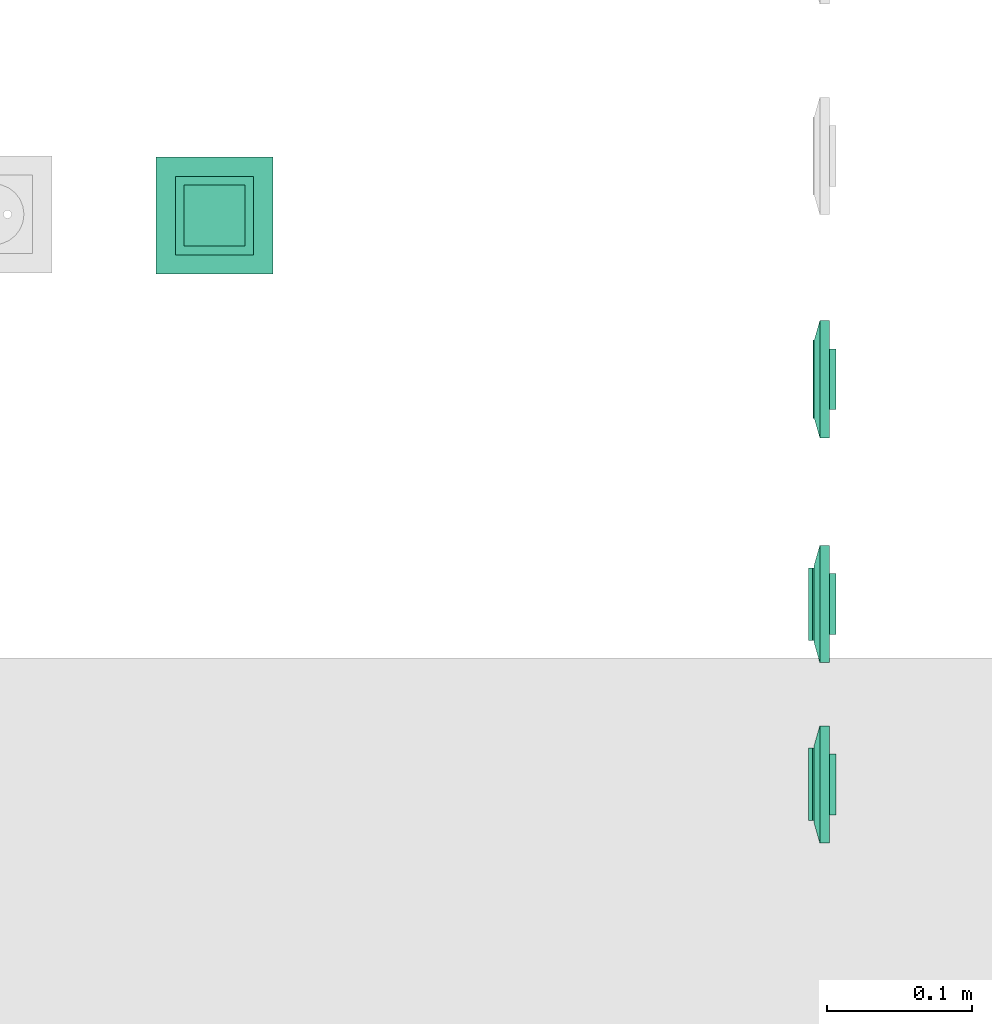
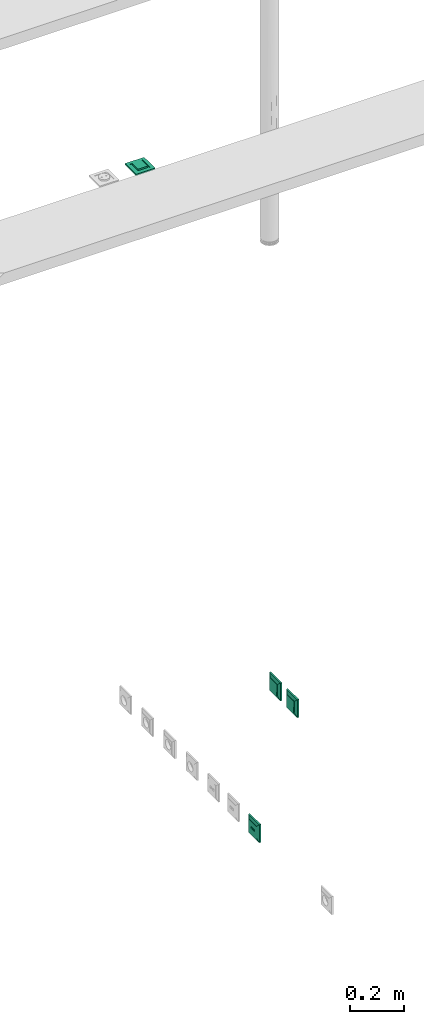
# One storey, part 35 of 146: 4 flow terminals.
"""IFC2X3 building model written with IfcOpenShell, lengths in metres."""

from ifc_helpers import new_model, entity, si_unit, converted_unit, derived_unit, direction, frame, origin, place, context, subcontext, project, spatial, faceted_brep, source, transform, mapped, type_object, type_shapes, element, save


model = new_model("IFC2X3")

# Units and contexts
model_context = context("Model", 3, precision=1e-05, world=origin(), true_north=direction((6.12303176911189e-17, 1.0)))
body_context = subcontext(model_context, "Body", "Model", "MODEL_VIEW")
ifc_project = project(units=[si_unit("LENGTHUNIT", "METRE"), si_unit("AREAUNIT", "SQUARE_METRE"), si_unit("VOLUMEUNIT", "CUBIC_METRE"), converted_unit("PLANEANGLEUNIT", "DEGREE", entity("IfcRatioMeasure", 0.0174532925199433), si_unit("PLANEANGLEUNIT", "RADIAN"), dimensions=[0, 0, 0, 0, 0, 0, 0]), si_unit("MASSUNIT", "GRAM", prefix="KILO"), derived_unit("MASSDENSITYUNIT", [(si_unit("MASSUNIT", "GRAM", prefix="KILO"), 1), (si_unit("LENGTHUNIT", "METRE"), -3)]), si_unit("TIMEUNIT", "SECOND"), si_unit("FREQUENCYUNIT", "HERTZ"), si_unit("THERMODYNAMICTEMPERATUREUNIT", "DEGREE_CELSIUS"), derived_unit("THERMALTRANSMITTANCEUNIT", [(si_unit("MASSUNIT", "GRAM", prefix="KILO"), 1), (si_unit("THERMODYNAMICTEMPERATUREUNIT", "KELVIN"), -1), (si_unit("TIMEUNIT", "SECOND"), -3)]), derived_unit("VOLUMETRICFLOWRATEUNIT", [(si_unit("LENGTHUNIT", "METRE"), 3), (si_unit("TIMEUNIT", "SECOND"), -1)]), si_unit("ELECTRICCURRENTUNIT", "AMPERE"), si_unit("ELECTRICVOLTAGEUNIT", "VOLT"), si_unit("POWERUNIT", "WATT"), si_unit("FORCEUNIT", "NEWTON"), si_unit("ILLUMINANCEUNIT", "LUX"), si_unit("LUMINOUSFLUXUNIT", "LUMEN"), si_unit("LUMINOUSINTENSITYUNIT", "CANDELA"), derived_unit("USERDEFINED", [(si_unit("MASSUNIT", "GRAM", prefix="KILO"), -1), (si_unit("LENGTHUNIT", "METRE"), -2), (si_unit("TIMEUNIT", "SECOND"), 3), (si_unit("LUMINOUSFLUXUNIT", "LUMEN"), 1)]), derived_unit("LINEARVELOCITYUNIT", [(si_unit("LENGTHUNIT", "METRE"), 1), (si_unit("TIMEUNIT", "SECOND"), -1)]), si_unit("PRESSUREUNIT", "PASCAL"), derived_unit("USERDEFINED", [(si_unit("LENGTHUNIT", "METRE"), -2), (si_unit("MASSUNIT", "GRAM", prefix="KILO"), 1), (si_unit("TIMEUNIT", "SECOND"), -2)])], contexts=[model_context])

# Site, building, storey
site_placement = place(None, origin())
site = spatial("IfcSite", under=ifc_project, at=site_placement, Name="Default", CompositionType="ELEMENT")
building_placement = place(site_placement, origin())
building = spatial("IfcBuilding", under=site, at=building_placement, CompositionType="ELEMENT")
storey_placement = place(building_placement, origin())
storey = spatial("IfcBuildingStorey", under=building, at=storey_placement, Name="S01", CompositionType="ELEMENT", Elevation=0.0)

# Flow terminals
electric_appliance_type_1 = type_object("IfcElectricApplianceType", Name="RJ45 IP20", PredefinedType="NOTDEFINED")
shared_shape_1 = source(origin(), body_context, "Body", "Brep", [
    faceted_brep([(0.00200000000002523, 0.0, 0.00799999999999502), (0.00400000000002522, 0.0, 0.00799999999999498), (0.00500000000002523, 0.00199999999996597, 0.00799999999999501), (0.0110000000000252, 0.00199999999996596, 0.00799999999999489), (0.0120000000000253, 0.0, 0.00799999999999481), (0.0140000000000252, 0.0, 0.00799999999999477), (0.0140000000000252, 0.00399999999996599, 0.00799999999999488), (0.00200000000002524, 0.00399999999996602, 0.00799999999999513), (0.00200000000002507, 0.0, 0.0), (0.00200000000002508, 0.00399999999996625, 0.0), (0.0140000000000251, 0.00399999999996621, 0.0), (0.0140000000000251, 0.0, 0.0), (0.0120000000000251, 0.0, 0.0), (0.0110000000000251, 0.00199999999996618, 0.0), (0.00500000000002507, 0.0019999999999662, 0.0), (0.00400000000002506, 0.0, 0.0)], [[[0, 1, 2, 3, 4, 5, 6, 7]], [[8, 9, 10, 11, 12, 13, 14, 15]], [[1, 0, 8, 15]], [[2, 1, 15, 14]], [[3, 2, 14, 13]], [[4, 3, 13, 12]], [[5, 4, 12, 11]], [[6, 5, 11, 10]], [[7, 6, 10, 9]], [[0, 7, 9, 8]]]),
    faceted_brep([(-0.0139999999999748, 0.0, 0.00799999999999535), (-0.0119999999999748, 0.0, 0.00799999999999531), (-0.0109999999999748, 0.00199999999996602, 0.00799999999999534), (-0.00499999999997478, 0.00199999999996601, 0.00799999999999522), (-0.0039999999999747, 0.0, 0.00799999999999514), (-0.00199999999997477, 0.0, 0.0079999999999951), (-0.00199999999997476, 0.00399999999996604, 0.00799999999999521), (-0.0139999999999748, 0.00399999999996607, 0.00799999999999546), (-0.0139999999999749, 0.0, 0.0), (-0.0139999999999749, 0.00399999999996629, 0.0), (-0.00199999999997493, 0.00399999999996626, 0.0), (-0.00199999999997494, 0.0, 0.0), (-0.00399999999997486, 0.0, 0.0), (-0.00499999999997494, 0.00199999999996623, 0.0), (-0.0109999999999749, 0.00199999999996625, 0.0), (-0.0119999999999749, 0.0, 0.0)], [[[0, 1, 2, 3, 4, 5, 6, 7]], [[8, 9, 10, 11, 12, 13, 14, 15]], [[1, 0, 8, 15]], [[2, 1, 15, 14]], [[3, 2, 14, 13]], [[4, 3, 13, 12]], [[5, 4, 12, 11]], [[6, 5, 11, 10]], [[7, 6, 10, 9]], [[0, 7, 9, 8]]]),
    faceted_brep([(0.0140000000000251, 0.00399999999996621, 0.0), (0.00200000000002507, 0.00399999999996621, 0.0), (0.00200000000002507, -0.00350000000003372, 0.0), (0.0140000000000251, -0.00350000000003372, 0.0), (0.0140000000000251, 0.00399999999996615, 0.00199999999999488), (0.00200000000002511, 0.00399999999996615, 0.00199999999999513), (0.00200000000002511, -0.00393859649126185, 0.00199999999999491), (0.0140000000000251, -0.00393859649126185, 0.00199999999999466), (0.0210000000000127, 0.0209999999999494, 0.00199999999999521), (-0.0209999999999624, 0.0209999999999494, 0.00199999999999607), (-0.0209999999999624, -0.0210000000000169, 0.00199999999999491), (0.0210000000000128, -0.0210000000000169, 0.00199999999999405), (-0.0139999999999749, 0.0039999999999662, 0.00199999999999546), (-0.0019999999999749, 0.0039999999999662, 0.00199999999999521), (-0.00199999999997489, -0.0039385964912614, 0.00199999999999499), (-0.0139999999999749, -0.00393859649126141, 0.00199999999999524), (0.0210000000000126, 0.0209999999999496, -0.00460000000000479), (0.0210000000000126, -0.0210000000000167, -0.00460000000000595), (-0.0209999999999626, -0.0210000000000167, -0.00460000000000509), (-0.0209999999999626, 0.0209999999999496, -0.00460000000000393), (-0.00199999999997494, 0.00399999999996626, 0.0), (-0.0139999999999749, 0.00399999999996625, 0.0), (-0.0139999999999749, -0.00350000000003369, 0.0), (-0.00199999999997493, -0.00350000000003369, 0.0)], [[[0, 1, 2, 3]], [[1, 0, 4, 5]], [[2, 1, 5, 6]], [[3, 2, 6, 7]], [[0, 3, 7, 4]], [[5, 4, 7, 6], [8, 9, 10, 11], [12, 13, 14, 15]], [[16, 17, 18, 19]], [[9, 8, 16, 19]], [[10, 9, 19, 18]], [[11, 10, 18, 17]], [[8, 11, 17, 16]], [[20, 21, 22, 23]], [[21, 20, 13, 12]], [[22, 21, 12, 15]], [[23, 22, 15, 14]], [[20, 23, 14, 13]]], outer=[[True], [True], [True], [True], [True], [False, True, False], [True], [True], [True], [True], [True], [True], [True], [True], [True], [True]]),
    faceted_brep([(0.0270000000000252, 0.026999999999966, 0.0113999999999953), (-0.0269999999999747, 0.026999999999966, 0.0113999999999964), (-0.0269999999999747, -0.0270000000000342, 0.0113999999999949), (0.0270000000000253, -0.0270000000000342, 0.0113999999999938), (0.0020000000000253, 0.00399999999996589, 0.0113999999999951), (0.0140000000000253, 0.00399999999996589, 0.0113999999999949), (0.0140000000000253, -0.00600000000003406, 0.0113999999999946), (0.0020000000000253, -0.00600000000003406, 0.0113999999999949), (-0.0139999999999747, 0.00399999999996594, 0.0113999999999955), (-0.00199999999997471, 0.00399999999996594, 0.0113999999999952), (-0.00199999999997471, -0.0060000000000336, 0.0113999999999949), (-0.0139999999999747, -0.00600000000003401, 0.0113999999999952), (0.0270000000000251, 0.0269999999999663, 0.00199999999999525), (0.0270000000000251, -0.0270000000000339, 0.00199999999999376), (-0.0269999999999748, -0.0270000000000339, 0.00199999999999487), (-0.0269999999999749, 0.0269999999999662, 0.00199999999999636), (0.0140000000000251, 0.00399999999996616, 0.00199999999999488), (0.00200000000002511, 0.00399999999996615, 0.00199999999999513), (0.00200000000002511, -0.00393859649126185, 0.00199999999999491), (0.0140000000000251, -0.00393859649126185, 0.00199999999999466), (-0.00199999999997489, 0.0039999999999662, 0.00199999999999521), (-0.0139999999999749, 0.0039999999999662, 0.00199999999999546), (-0.0139999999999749, -0.0039385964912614, 0.00199999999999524), (-0.00199999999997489, -0.0039385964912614, 0.00199999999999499)], [[[0, 1, 2, 3], [4, 5, 6, 7], [8, 9, 10, 11]], [[12, 13, 14, 15], [16, 17, 18, 19], [20, 21, 22, 23]], [[1, 0, 12, 15]], [[2, 1, 15, 14]], [[3, 2, 14, 13]], [[0, 3, 13, 12]], [[4, 17, 16, 5]], [[17, 4, 7, 18]], [[18, 7, 6, 19]], [[5, 16, 19, 6]], [[8, 21, 20, 9]], [[21, 8, 11, 22]], [[22, 11, 10, 23]], [[9, 20, 23, 10]]]),
    faceted_brep([(0.027000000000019, 0.0269999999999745, 0.00659999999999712), (-0.0269999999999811, 0.0269999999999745, 0.00659999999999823), (-0.026999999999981, -0.0270000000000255, 0.00659999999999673), (0.027000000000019, -0.0270000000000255, 0.00659999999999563), (0.040350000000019, 0.0403499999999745, 0.00659999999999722), (0.040350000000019, -0.0403500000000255, 0.00659999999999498), (-0.0403499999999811, -0.0403500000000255, 0.00659999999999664), (-0.0403499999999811, 0.0403499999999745, 0.00659999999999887), (-0.026999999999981, 0.0269999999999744, 0.0103999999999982), (0.027000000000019, 0.0269999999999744, 0.0103999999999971), (-0.026999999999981, -0.0270000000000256, 0.0103999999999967), (0.027000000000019, -0.0270000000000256, 0.0103999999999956)], [[[0, 1, 2, 3], [4, 5, 6, 7]], [[4, 7, 8, 9]], [[7, 6, 10, 8]], [[6, 5, 11, 10]], [[5, 4, 9, 11]], [[0, 9, 8, 1]], [[1, 8, 10, 2]], [[2, 10, 11, 3]], [[9, 0, 3, 11]]], outer=[[False, True], [True], [True], [True], [True], [True], [True], [True], [True]]),
    faceted_brep([(0.040350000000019, 0.0403499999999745, 0.00659999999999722), (-0.0403499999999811, 0.0403499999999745, 0.00659999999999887), (-0.0403499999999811, -0.0403500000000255, 0.00659999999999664), (0.040350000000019, -0.0403500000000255, 0.00659999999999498), (-0.0269999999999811, 0.0269999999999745, 0.00659999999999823), (0.0270000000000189, 0.0269999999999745, 0.00659999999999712), (0.0270000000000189, -0.0270000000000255, 0.00659999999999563), (-0.0269999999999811, -0.0270000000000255, 0.00659999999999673), (0.0403500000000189, 0.0403499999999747, 0.0), (0.0403500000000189, -0.0403500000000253, 0.0), (-0.0403499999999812, -0.0403500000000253, 0.0), (-0.0403499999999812, 0.0403499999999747, 0.0), (0.0270000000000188, 0.0269999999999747, 0.0), (-0.0269999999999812, 0.0269999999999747, 0.0), (-0.0269999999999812, -0.0270000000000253, 0.0), (0.0270000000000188, -0.0270000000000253, 0.0)], [[[0, 1, 2, 3], [4, 5, 6, 7]], [[8, 9, 10, 11], [12, 13, 14, 15]], [[1, 0, 8, 11]], [[2, 1, 11, 10]], [[3, 2, 10, 9]], [[0, 3, 9, 8]], [[12, 5, 4, 13]], [[13, 4, 7, 14]], [[14, 7, 6, 15]], [[5, 12, 15, 6]]]),
])
type_shapes(electric_appliance_type_1, [shared_shape_1])
flow_terminal_1_placement = place(storey_placement, frame((40.8031955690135, -189.054169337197, 0.320000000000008), z_axis=(-1.0, 0.0, 0.0), x_axis=(0.0, -1.0, 0.0)))
element("IfcFlowTerminal", 1, at=flow_terminal_1_placement, inside=storey, type_object=electric_appliance_type_1, Name="INT_Prise RJ45:RJ45 IP20", ObjectType="INT_Prise RJ45:RJ45 IP20", context=body_context, shape_type="MappedRepresentation", body=[
    mapped(shared_shape_1, transform((0.0, 0.0, 0.0), scale=1.0)),
])
electric_appliance_type_2 = type_object("IfcElectricApplianceType", Name="RJ45 IP21", PredefinedType="NOTDEFINED")
shared_shape_2 = source(origin(), body_context, "Body", "Brep", [
    faceted_brep([(0.00200000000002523, 0.0, 0.00799999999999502), (0.00400000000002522, 0.0, 0.00799999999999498), (0.00500000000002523, 0.00199999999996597, 0.00799999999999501), (0.0110000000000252, 0.00199999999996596, 0.00799999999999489), (0.0120000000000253, 0.0, 0.00799999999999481), (0.0140000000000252, 0.0, 0.00799999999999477), (0.0140000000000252, 0.00399999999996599, 0.00799999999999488), (0.00200000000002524, 0.00399999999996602, 0.00799999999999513), (0.00200000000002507, 0.0, 0.0), (0.00200000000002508, 0.00399999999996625, 0.0), (0.0140000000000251, 0.00399999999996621, 0.0), (0.0140000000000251, 0.0, 0.0), (0.0120000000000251, 0.0, 0.0), (0.0110000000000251, 0.00199999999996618, 0.0), (0.00500000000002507, 0.0019999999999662, 0.0), (0.00400000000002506, 0.0, 0.0)], [[[0, 1, 2, 3, 4, 5, 6, 7]], [[8, 9, 10, 11, 12, 13, 14, 15]], [[1, 0, 8, 15]], [[2, 1, 15, 14]], [[3, 2, 14, 13]], [[4, 3, 13, 12]], [[5, 4, 12, 11]], [[6, 5, 11, 10]], [[7, 6, 10, 9]], [[0, 7, 9, 8]]]),
    faceted_brep([(-0.0139999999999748, 0.0, 0.00799999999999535), (-0.0119999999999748, 0.0, 0.00799999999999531), (-0.0109999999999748, 0.00199999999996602, 0.00799999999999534), (-0.00499999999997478, 0.00199999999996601, 0.00799999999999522), (-0.0039999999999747, 0.0, 0.00799999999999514), (-0.00199999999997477, 0.0, 0.0079999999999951), (-0.00199999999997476, 0.00399999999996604, 0.00799999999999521), (-0.0139999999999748, 0.00399999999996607, 0.00799999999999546), (-0.0139999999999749, 0.0, 0.0), (-0.0139999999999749, 0.00399999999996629, 0.0), (-0.00199999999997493, 0.00399999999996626, 0.0), (-0.00199999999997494, 0.0, 0.0), (-0.00399999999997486, 0.0, 0.0), (-0.00499999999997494, 0.00199999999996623, 0.0), (-0.0109999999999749, 0.00199999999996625, 0.0), (-0.0119999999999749, 0.0, 0.0)], [[[0, 1, 2, 3, 4, 5, 6, 7]], [[8, 9, 10, 11, 12, 13, 14, 15]], [[1, 0, 8, 15]], [[2, 1, 15, 14]], [[3, 2, 14, 13]], [[4, 3, 13, 12]], [[5, 4, 12, 11]], [[6, 5, 11, 10]], [[7, 6, 10, 9]], [[0, 7, 9, 8]]]),
    faceted_brep([(0.0140000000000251, 0.00399999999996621, 0.0), (0.00200000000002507, 0.00399999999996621, 0.0), (0.00200000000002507, -0.00350000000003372, 0.0), (0.0140000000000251, -0.00350000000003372, 0.0), (0.0140000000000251, 0.00399999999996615, 0.00199999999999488), (0.00200000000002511, 0.00399999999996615, 0.00199999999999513), (0.00200000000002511, -0.00393859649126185, 0.00199999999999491), (0.0140000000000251, -0.00393859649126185, 0.00199999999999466), (0.0210000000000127, 0.0209999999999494, 0.00199999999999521), (-0.0209999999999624, 0.0209999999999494, 0.00199999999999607), (-0.0209999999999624, -0.0210000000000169, 0.00199999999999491), (0.0210000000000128, -0.0210000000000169, 0.00199999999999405), (-0.0139999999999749, 0.0039999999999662, 0.00199999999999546), (-0.0019999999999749, 0.0039999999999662, 0.00199999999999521), (-0.00199999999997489, -0.0039385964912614, 0.00199999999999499), (-0.0139999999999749, -0.00393859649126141, 0.00199999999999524), (0.0210000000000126, 0.0209999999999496, -0.00460000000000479), (0.0210000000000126, -0.0210000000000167, -0.00460000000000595), (-0.0209999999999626, -0.0210000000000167, -0.00460000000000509), (-0.0209999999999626, 0.0209999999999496, -0.00460000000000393), (-0.00199999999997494, 0.00399999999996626, 0.0), (-0.0139999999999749, 0.00399999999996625, 0.0), (-0.0139999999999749, -0.00350000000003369, 0.0), (-0.00199999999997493, -0.00350000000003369, 0.0)], [[[0, 1, 2, 3]], [[1, 0, 4, 5]], [[2, 1, 5, 6]], [[3, 2, 6, 7]], [[0, 3, 7, 4]], [[5, 4, 7, 6], [8, 9, 10, 11], [12, 13, 14, 15]], [[16, 17, 18, 19]], [[9, 8, 16, 19]], [[10, 9, 19, 18]], [[11, 10, 18, 17]], [[8, 11, 17, 16]], [[20, 21, 22, 23]], [[21, 20, 13, 12]], [[22, 21, 12, 15]], [[23, 22, 15, 14]], [[20, 23, 14, 13]]], outer=[[True], [True], [True], [True], [True], [False, True, False], [True], [True], [True], [True], [True], [True], [True], [True], [True], [True]]),
    faceted_brep([(0.0270000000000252, 0.026999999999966, 0.0113999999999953), (-0.0269999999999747, 0.026999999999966, 0.0113999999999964), (-0.0269999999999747, -0.0270000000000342, 0.0113999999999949), (0.0270000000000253, -0.0270000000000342, 0.0113999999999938), (0.0020000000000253, 0.00399999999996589, 0.0113999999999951), (0.0140000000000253, 0.00399999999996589, 0.0113999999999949), (0.0140000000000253, -0.00600000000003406, 0.0113999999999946), (0.0020000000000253, -0.00600000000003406, 0.0113999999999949), (-0.0139999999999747, 0.00399999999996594, 0.0113999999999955), (-0.00199999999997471, 0.00399999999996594, 0.0113999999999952), (-0.00199999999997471, -0.0060000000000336, 0.0113999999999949), (-0.0139999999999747, -0.00600000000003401, 0.0113999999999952), (0.0270000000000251, 0.0269999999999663, 0.00199999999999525), (0.0270000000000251, -0.0270000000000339, 0.00199999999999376), (-0.0269999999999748, -0.0270000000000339, 0.00199999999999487), (-0.0269999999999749, 0.0269999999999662, 0.00199999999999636), (0.0140000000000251, 0.00399999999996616, 0.00199999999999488), (0.00200000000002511, 0.00399999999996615, 0.00199999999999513), (0.00200000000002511, -0.00393859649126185, 0.00199999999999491), (0.0140000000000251, -0.00393859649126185, 0.00199999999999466), (-0.00199999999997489, 0.0039999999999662, 0.00199999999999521), (-0.0139999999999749, 0.0039999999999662, 0.00199999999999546), (-0.0139999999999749, -0.0039385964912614, 0.00199999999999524), (-0.00199999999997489, -0.0039385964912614, 0.00199999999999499)], [[[0, 1, 2, 3], [4, 5, 6, 7], [8, 9, 10, 11]], [[12, 13, 14, 15], [16, 17, 18, 19], [20, 21, 22, 23]], [[1, 0, 12, 15]], [[2, 1, 15, 14]], [[3, 2, 14, 13]], [[0, 3, 13, 12]], [[4, 17, 16, 5]], [[17, 4, 7, 18]], [[18, 7, 6, 19]], [[5, 16, 19, 6]], [[8, 21, 20, 9]], [[21, 8, 11, 22]], [[22, 11, 10, 23]], [[9, 20, 23, 10]]]),
    faceted_brep([(0.027000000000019, 0.0269999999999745, 0.00659999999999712), (-0.0269999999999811, 0.0269999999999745, 0.00659999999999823), (-0.026999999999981, -0.0270000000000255, 0.00659999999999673), (0.027000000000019, -0.0270000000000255, 0.00659999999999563), (0.040350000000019, 0.0403499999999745, 0.00659999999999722), (0.040350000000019, -0.0403500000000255, 0.00659999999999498), (-0.0403499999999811, -0.0403500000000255, 0.00659999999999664), (-0.0403499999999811, 0.0403499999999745, 0.00659999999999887), (-0.026999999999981, 0.0269999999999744, 0.0103999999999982), (0.027000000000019, 0.0269999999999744, 0.0103999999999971), (-0.026999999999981, -0.0270000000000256, 0.0103999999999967), (0.027000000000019, -0.0270000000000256, 0.0103999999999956)], [[[0, 1, 2, 3], [4, 5, 6, 7]], [[4, 7, 8, 9]], [[7, 6, 10, 8]], [[6, 5, 11, 10]], [[5, 4, 9, 11]], [[0, 9, 8, 1]], [[1, 8, 10, 2]], [[2, 10, 11, 3]], [[9, 0, 3, 11]]], outer=[[False, True], [True], [True], [True], [True], [True], [True], [True], [True]]),
    faceted_brep([(0.040350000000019, 0.0403499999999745, 0.00659999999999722), (-0.0403499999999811, 0.0403499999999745, 0.00659999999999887), (-0.0403499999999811, -0.0403500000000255, 0.00659999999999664), (0.040350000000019, -0.0403500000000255, 0.00659999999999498), (-0.0269999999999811, 0.0269999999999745, 0.00659999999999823), (0.0270000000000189, 0.0269999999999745, 0.00659999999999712), (0.0270000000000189, -0.0270000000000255, 0.00659999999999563), (-0.0269999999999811, -0.0270000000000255, 0.00659999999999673), (0.0403500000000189, 0.0403499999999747, 0.0), (0.0403500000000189, -0.0403500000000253, 0.0), (-0.0403499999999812, -0.0403500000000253, 0.0), (-0.0403499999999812, 0.0403499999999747, 0.0), (0.0270000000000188, 0.0269999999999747, 0.0), (-0.0269999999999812, 0.0269999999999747, 0.0), (-0.0269999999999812, -0.0270000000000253, 0.0), (0.0270000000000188, -0.0270000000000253, 0.0)], [[[0, 1, 2, 3], [4, 5, 6, 7]], [[8, 9, 10, 11], [12, 13, 14, 15]], [[1, 0, 8, 11]], [[2, 1, 11, 10]], [[3, 2, 10, 9]], [[0, 3, 9, 8]], [[12, 5, 4, 13]], [[13, 4, 7, 14]], [[14, 7, 6, 15]], [[5, 12, 15, 6]]]),
])
type_shapes(electric_appliance_type_2, [shared_shape_2])
flow_terminal_2_placement = place(storey_placement, frame((40.3792402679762, -188.941366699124, 3.37), z_axis=(0.0, 0.0, -1.0), x_axis=(-1.0, 0.0, 0.0)))
element("IfcFlowTerminal", 2, at=flow_terminal_2_placement, inside=storey, type_object=electric_appliance_type_2, Name="INT_Prise RJ45:RJ45 IP21", ObjectType="INT_Prise RJ45:RJ45 IP21", context=body_context, shape_type="MappedRepresentation", body=[
    mapped(shared_shape_2, transform((0.0, 0.0, 0.0), scale=1.0)),
])
light_fixture_type = type_object("IfcLightFixtureType", Name="BP IP21", PredefinedType="NOTDEFINED")
shared_shape_3 = source(origin(), body_context, "Body", "Brep", [
    faceted_brep([(0.0, 0.0209999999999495, -0.00460000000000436), (0.00543519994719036, 0.02028444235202, -0.00460000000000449), (0.0105000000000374, 0.0181865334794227, -0.00460000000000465), (0.0148492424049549, 0.014849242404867, -0.00460000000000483), (0.0181865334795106, 0.0104999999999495, -0.00460000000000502), (0.0202844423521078, 0.00543519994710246, -0.00460000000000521), (0.0210000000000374, 0.0, -0.00460000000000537), (0.0202844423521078, -0.00543519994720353, -0.00460000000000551), (0.0181865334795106, -0.0105000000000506, -0.0046000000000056), (0.0148492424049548, -0.0148492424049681, -0.00460000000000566), (0.0105000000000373, -0.0181865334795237, -0.00460000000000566), (0.00543519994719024, -0.0202844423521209, -0.00460000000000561), (0.0, -0.0210000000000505, -0.00460000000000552), (-0.00543519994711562, -0.0202844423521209, -0.00460000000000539), (-0.0104999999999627, -0.0181865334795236, -0.00460000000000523), (-0.0148492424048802, -0.0148492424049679, -0.00460000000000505), (-0.0181865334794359, -0.0105000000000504, -0.00460000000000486), (-0.0202844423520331, -0.00543519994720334, -0.00460000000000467), (-0.0209999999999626, 0.0, -0.00460000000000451), (-0.020284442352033, 0.00543519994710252, -0.00460000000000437), (-0.0181865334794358, 0.0104999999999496, -0.00460000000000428), (-0.0148492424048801, 0.0148492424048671, -0.00460000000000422), (-0.0104999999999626, 0.0181865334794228, -0.00460000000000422), (-0.00543519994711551, 0.02028444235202, -0.00460000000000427), (-0.020284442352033, -0.00543519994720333, 0.0), (-0.0209999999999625, 0.0, 0.0), (-0.0181865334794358, -0.0105000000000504, 0.0), (-0.0104999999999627, -0.0181865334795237, 0.0), (-0.0148492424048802, -0.0148492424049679, 0.0), (-0.00543519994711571, -0.020284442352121, 0.0), (0.0, -0.0210000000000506, 0.0), (0.00543519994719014, -0.0202844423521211, 0.0), (0.0105000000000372, -0.018186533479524, 0.0), (0.0181865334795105, -0.0105000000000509, 0.0), (0.0148492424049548, -0.0148492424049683, 0.0), (0.0202844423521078, -0.00543519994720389, 0.0), (0.0210000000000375, 0.0, 0.0), (0.0202844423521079, 0.00543519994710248, 0.0), (0.0181865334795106, 0.0104999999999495, 0.0), (0.0105000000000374, 0.0181865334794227, 0.0), (0.0148492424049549, 0.014849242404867, 0.0), (0.00543519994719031, 0.0202844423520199, 0.0), (0.0, 0.0209999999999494, 0.0), (-0.00543519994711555, 0.0202844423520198, 0.0), (-0.0104999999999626, 0.0181865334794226, 0.0), (-0.0181865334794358, 0.0104999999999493, 0.0), (-0.0148492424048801, 0.0148492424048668, 0.0), (-0.020284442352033, 0.00543519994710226, 0.0)], [[[0, 1, 2, 3, 4, 5, 6, 7, 8, 9, 10, 11, 12, 13, 14, 15, 16, 17, 18, 19, 20, 21, 22, 23]], [[17, 24, 25, 18]], [[16, 26, 24, 17]], [[27, 28, 15, 14]], [[16, 15, 28, 26]], [[29, 27, 14, 13]], [[30, 29, 13, 12]], [[11, 31, 30, 12]], [[10, 32, 31, 11]], [[33, 34, 9, 8]], [[10, 9, 34, 32]], [[35, 33, 8, 7]], [[36, 35, 7, 6]], [[5, 37, 36, 6]], [[4, 38, 37, 5]], [[39, 40, 3, 2]], [[4, 3, 40, 38]], [[41, 39, 2, 1]], [[42, 41, 1, 0]], [[23, 43, 42, 0]], [[22, 44, 43, 23]], [[45, 46, 21, 20]], [[22, 21, 46, 44]], [[47, 45, 20, 19]], [[25, 47, 19, 18]], [[25, 24, 26, 28, 27, 29, 30, 31, 32, 34, 33, 35, 36, 37, 38, 40, 39, 41, 42, 43, 44, 46, 45, 47]]]),
    faceted_brep([(0.0270000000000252, 0.026999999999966, 0.0103999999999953), (-0.0269999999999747, 0.026999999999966, 0.0103999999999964), (-0.0269999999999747, -0.0270000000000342, 0.0103999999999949), (0.0270000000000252, -0.0270000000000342, 0.0103999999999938), (-0.0254999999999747, 0.0258096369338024, 0.0103999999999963), (0.0255000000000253, 0.0258096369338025, 0.0103999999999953), (0.0255000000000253, -0.0255000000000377, 0.0103999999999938), (-0.0254999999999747, -0.0255000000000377, 0.0103999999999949), (0.0270000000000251, 0.0269999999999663, 0.00199999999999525), (0.0270000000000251, -0.0270000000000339, 0.00199999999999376), (-0.0269999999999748, -0.0270000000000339, 0.00199999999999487), (-0.0269999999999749, 0.0269999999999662, 0.00199999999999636), (0.0255000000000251, 0.0258096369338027, 0.00199999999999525), (-0.0254999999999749, 0.0258096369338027, 0.0019999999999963), (-0.0254999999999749, -0.0255000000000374, 0.00199999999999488), (0.0255000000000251, -0.0255000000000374, 0.00199999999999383)], [[[0, 1, 2, 3], [4, 5, 6, 7]], [[8, 9, 10, 11], [12, 13, 14, 15]], [[1, 0, 8, 11]], [[2, 1, 11, 10]], [[3, 2, 10, 9]], [[0, 3, 9, 8]], [[12, 5, 4, 13]], [[13, 4, 7, 14]], [[14, 7, 6, 15]], [[5, 12, 15, 6]]]),
    faceted_brep([(0.0250000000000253, 0.0253096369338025, 0.00659999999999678), (0.0250000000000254, 0.0253096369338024, 0.0117095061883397), (0.0250000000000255, -0.0245000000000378, 0.0142232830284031), (0.0250000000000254, -0.0250000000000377, 0.0117095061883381), (0.0250000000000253, -0.0250000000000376, 0.00659999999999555), (-0.0249999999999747, 0.0253096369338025, 0.00659999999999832), (-0.0249999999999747, -0.0250000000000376, 0.00659999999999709), (-0.0249999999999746, -0.0250000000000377, 0.0117095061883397), (-0.0249999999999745, -0.0245000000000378, 0.0142232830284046), (-0.0249999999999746, 0.0253096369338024, 0.0117095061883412)], [[[0, 1, 2, 3, 4]], [[5, 6, 7, 8, 9]], [[1, 0, 5, 9]], [[2, 1, 9, 8]], [[3, 2, 8, 7]], [[4, 3, 7, 6]], [[0, 4, 6, 5]]]),
    faceted_brep([(0.027000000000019, 0.0269999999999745, 0.00659999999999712), (-0.0269999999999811, 0.0269999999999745, 0.00659999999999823), (-0.026999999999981, -0.0270000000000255, 0.00659999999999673), (0.027000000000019, -0.0270000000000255, 0.00659999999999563), (0.040350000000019, 0.0403499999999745, 0.00659999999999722), (0.040350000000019, -0.0403500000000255, 0.00659999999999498), (-0.0403499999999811, -0.0403500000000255, 0.00659999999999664), (-0.0403499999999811, 0.0403499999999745, 0.00659999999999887), (-0.026999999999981, 0.0269999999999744, 0.0103999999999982), (0.027000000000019, 0.0269999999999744, 0.0103999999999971), (-0.026999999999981, -0.0270000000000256, 0.0103999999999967), (0.027000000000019, -0.0270000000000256, 0.0103999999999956)], [[[0, 1, 2, 3], [4, 5, 6, 7]], [[4, 7, 8, 9]], [[7, 6, 10, 8]], [[6, 5, 11, 10]], [[5, 4, 9, 11]], [[0, 9, 8, 1]], [[1, 8, 10, 2]], [[2, 10, 11, 3]], [[9, 0, 3, 11]]], outer=[[False, True], [True], [True], [True], [True], [True], [True], [True], [True]]),
    faceted_brep([(0.040350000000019, 0.0403499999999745, 0.00659999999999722), (-0.0403499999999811, 0.0403499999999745, 0.00659999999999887), (-0.0403499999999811, -0.0403500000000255, 0.00659999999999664), (0.040350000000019, -0.0403500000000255, 0.00659999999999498), (-0.0269999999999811, 0.0269999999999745, 0.00659999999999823), (0.0270000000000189, 0.0269999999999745, 0.00659999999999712), (0.0270000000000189, -0.0270000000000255, 0.00659999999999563), (-0.0269999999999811, -0.0270000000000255, 0.00659999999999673), (0.0403500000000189, 0.0403499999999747, 0.0), (0.0403500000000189, -0.0403500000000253, 0.0), (-0.0403499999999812, -0.0403500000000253, 0.0), (-0.0403499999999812, 0.0403499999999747, 0.0), (0.0270000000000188, 0.0269999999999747, 0.0), (-0.0269999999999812, 0.0269999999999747, 0.0), (-0.0269999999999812, -0.0270000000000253, 0.0), (0.0270000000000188, -0.0270000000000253, 0.0)], [[[0, 1, 2, 3], [4, 5, 6, 7]], [[8, 9, 10, 11], [12, 13, 14, 15]], [[1, 0, 8, 11]], [[2, 1, 11, 10]], [[3, 2, 10, 9]], [[0, 3, 9, 8]], [[12, 5, 4, 13]], [[13, 4, 7, 14]], [[14, 7, 6, 15]], [[5, 12, 15, 6]]]),
])
type_shapes(light_fixture_type, [shared_shape_3])
for number, where, z_axis, x_axis in (
    (3, (40.8031955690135, -189.209168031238, 1.05000000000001), (-1.0, 0.0, 0.0), (0.0, -1.0, 0.0)),
    (4, (40.8031955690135, -189.333512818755, 1.05000000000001), (-1.0, 0.0, 0.0), (0.0, -1.0, 0.0)),
):
    element("IfcFlowTerminal", number, at=place(building_placement, frame(where, z_axis=z_axis, x_axis=x_axis)), inside=storey, type_object=light_fixture_type, Name="INT_Cmd BA:BP IP21", ObjectType="INT_Cmd BA:BP IP21", context=body_context, shape_type="MappedRepresentation", body=[
        mapped(shared_shape_3, transform((0.0, 0.0, 0.0), scale=1.0)),
    ])

save(model, "model.ifc")
